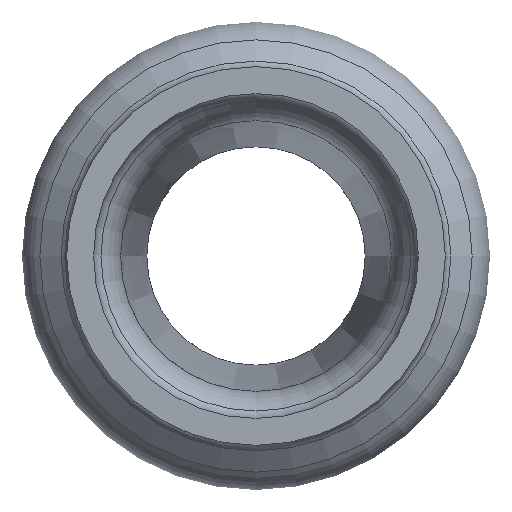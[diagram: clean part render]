
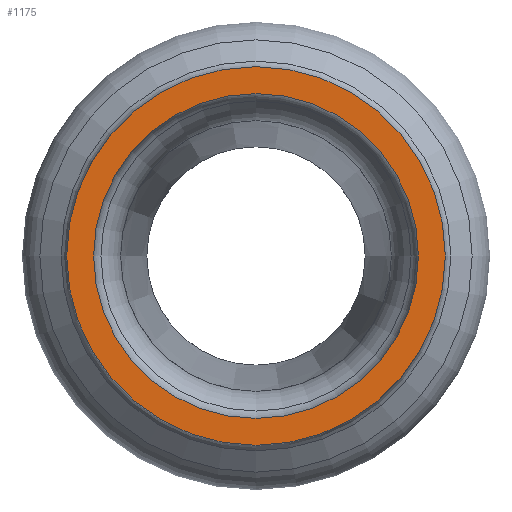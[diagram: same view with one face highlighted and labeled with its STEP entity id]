
A CAD part, left-side view. The second image highlights one B-rep face of the part: STEP entity #1175.
In plain terms, the highlighted planar face has unit normal (-1, 0, 0).
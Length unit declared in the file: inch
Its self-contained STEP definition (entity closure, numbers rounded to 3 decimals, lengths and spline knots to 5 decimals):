
#46=FACE_BOUND('',#211,.T.);
#48=PLANE('',#1401);
#161=FACE_OUTER_BOUND('',#210,.T.);
#210=EDGE_LOOP('',(#1044,#1045));
#211=EDGE_LOOP('',(#1046,#1047));
#369=CIRCLE('',#1399,0.6575);
#370=CIRCLE('',#1400,0.6575);
#371=CIRCLE('',#1402,0.7665);
#372=CIRCLE('',#1403,0.7665);
#505=VERTEX_POINT('',#2239);
#506=VERTEX_POINT('',#2241);
#507=VERTEX_POINT('',#2245);
#508=VERTEX_POINT('',#2246);
#686=EDGE_CURVE('',#506,#505,#369,.T.);
#687=EDGE_CURVE('',#505,#506,#370,.T.);
#688=EDGE_CURVE('',#507,#508,#371,.T.);
#689=EDGE_CURVE('',#508,#507,#372,.T.);
#1044=ORIENTED_EDGE('',*,*,#688,.F.);
#1045=ORIENTED_EDGE('',*,*,#689,.F.);
#1046=ORIENTED_EDGE('',*,*,#686,.T.);
#1047=ORIENTED_EDGE('',*,*,#687,.T.);
#1175=ADVANCED_FACE('',(#161,#46),#48,.T.);
#1399=AXIS2_PLACEMENT_3D('',#2242,#1845,#1846);
#1400=AXIS2_PLACEMENT_3D('',#2243,#1847,#1848);
#1401=AXIS2_PLACEMENT_3D('',#2244,#1849,#1850);
#1402=AXIS2_PLACEMENT_3D('',#2247,#1851,#1852);
#1403=AXIS2_PLACEMENT_3D('',#2248,#1853,#1854);
#1845=DIRECTION('center_axis',(1.,0.,0.));
#1846=DIRECTION('ref_axis',(0.,1.,0.));
#1847=DIRECTION('center_axis',(1.,0.,0.));
#1848=DIRECTION('ref_axis',(0.,1.,0.));
#1849=DIRECTION('center_axis',(-1.,0.,0.));
#1850=DIRECTION('ref_axis',(0.,0.,1.));
#1851=DIRECTION('center_axis',(1.,0.,0.));
#1852=DIRECTION('ref_axis',(0.,1.,0.));
#1853=DIRECTION('center_axis',(1.,0.,0.));
#1854=DIRECTION('ref_axis',(0.,1.,0.));
#2239=CARTESIAN_POINT('',(-2.42,-0.6575,0.));
#2241=CARTESIAN_POINT('',(-2.42,0.6575,0.));
#2242=CARTESIAN_POINT('Origin',(-2.42,0.,0.));
#2243=CARTESIAN_POINT('Origin',(-2.42,0.,0.));
#2244=CARTESIAN_POINT('Origin',(-2.42,0.712,0.));
#2245=CARTESIAN_POINT('',(-2.42,0.7665,0.));
#2246=CARTESIAN_POINT('',(-2.42,-0.7665,0.));
#2247=CARTESIAN_POINT('Origin',(-2.42,0.,0.));
#2248=CARTESIAN_POINT('Origin',(-2.42,0.,0.));
